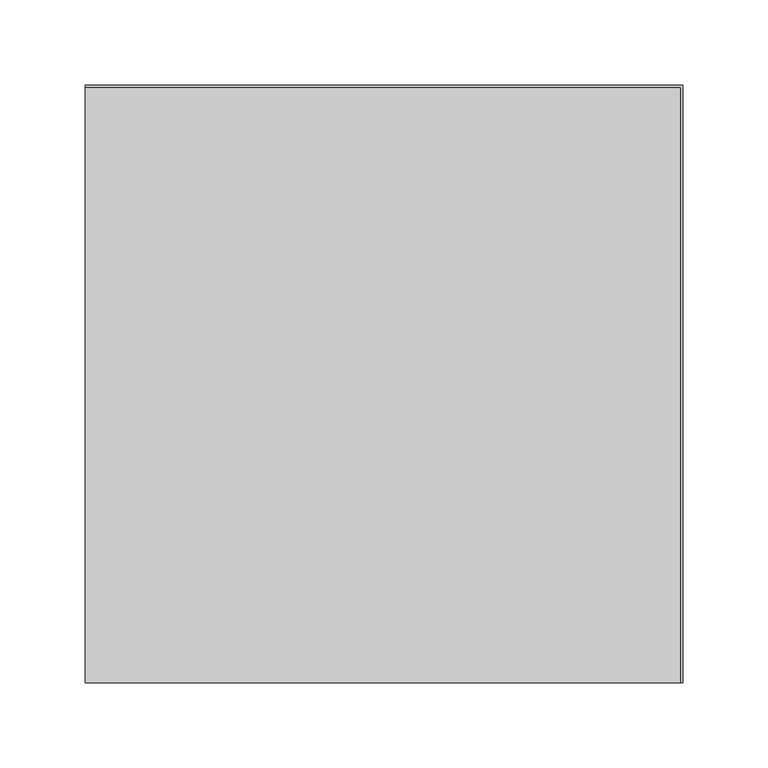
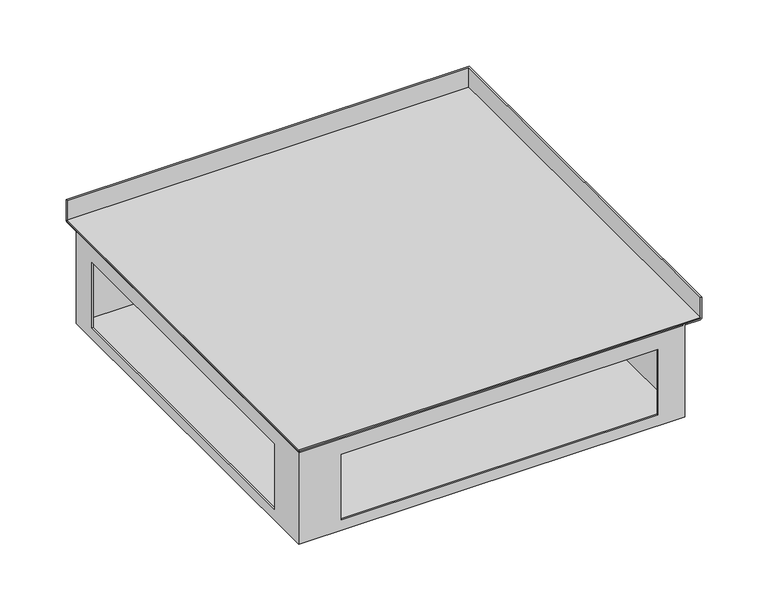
"""IFC4 building model written with IfcOpenShell, lengths in millimetres: proxy geometry, TECHNO_Угловой элемент_KVU : 350_105_90°."""

import ifcopenshell
import ifcopenshell.guid

model = None  # the IFC model being written
_history = None  # IfcOwnerHistory: only IFC2X3 demands one
_inside = {}  # id of a spatial element -> (the spatial element, [elements in it])
_under = {}  # id of a project, library or spatial element -> (it, [spatial elements below it])
_declared = {}  # id of a project -> (the project, [libraries it declares])
_typed = {}  # id of a type object -> (the type object, [elements of that type])
_made_of = {}  # id of a material, layer set ... -> (it, [elements and type objects made of it])


def new_model(schema):
    """Start an empty IFC model of exactly this schema.

    Asked for "IFC4X3", IfcOpenShell would pick the latest addendum, in which some entities
    have other attributes; the version numbers below select the first issue.
    IFC2X3 requires an IfcOwnerHistory on every rooted entity: one is made here for all.
    """
    global model, _history
    if schema == "IFC4X3":
        model = ifcopenshell.file(schema_version=(4, 3, 0, 0))
    else:
        model = ifcopenshell.file(schema=schema)
    _inside.clear()
    _under.clear()
    _declared.clear()
    _typed.clear()
    _made_of.clear()
    _history = None
    if model.schema == "IFC2X3":
        org = make("IfcOrganization", Name="unknown")
        user = make(
            "IfcPersonAndOrganization",
            ThePerson=make("IfcPerson", FamilyName="unknown"),
            TheOrganization=org,
        )
        app = make(
            "IfcApplication",
            ApplicationDeveloper=org,
            Version="unknown",
            ApplicationFullName="unknown",
            ApplicationIdentifier="unknown",
        )
        _history = make(
            "IfcOwnerHistory",
            OwningUser=user,
            OwningApplication=app,
            ChangeAction="ADDED",
            CreationDate=0,
        )
    return model


def make(cls, **values):
    """One entity of the class cls with the attributes given. An attribute that is None is left unset."""
    return model.create_entity(
        cls, **{name: value for name, value in values.items() if value is not None}
    )


def rooted(cls, **values):
    """An entity with a GlobalId (a new one), such as an element, a storey or a relation."""
    return make(cls, GlobalId=ifcopenshell.guid.new(), OwnerHistory=_history, **values)


def si_unit(unit_type, name, prefix=None):
    """IfcSIUnit, for example si_unit("LENGTHUNIT", "METRE", prefix="MILLI")."""
    return make("IfcSIUnit", UnitType=unit_type, Prefix=prefix, Name=name)


def assignment(units):
    """IfcUnitAssignment: the units of a project."""
    return None if units is None else make("IfcUnitAssignment", Units=units)


def point(xyz):
    """IfcCartesianPoint."""
    return None if xyz is None else make("IfcCartesianPoint", Coordinates=xyz)


def direction(xyz):
    """IfcDirection."""
    return None if xyz is None else make("IfcDirection", DirectionRatios=xyz)


def frame(location, z_axis=None, x_axis=None):
    """IfcAxis2Placement3D, a coordinate frame: its origin and axes. An axis left out is left unset."""
    return make(
        "IfcAxis2Placement3D",
        Location=point(location),
        Axis=direction(z_axis),
        RefDirection=direction(x_axis),
    )


def origin():
    """The frame at (0, 0, 0) with its axes left unset."""
    return frame((0.0, 0.0, 0.0))


def place(relative_to, where):
    """IfcLocalPlacement: puts the frame where relative to a parent placement (None: the world)."""
    return make(
        "IfcLocalPlacement", PlacementRelTo=relative_to, RelativePlacement=where
    )


def context(
    kind, dimensions, precision=None, world=None, true_north=None, identifier=None
):
    """IfcGeometricRepresentationContext, for example the 3D "Model" context."""
    return make(
        "IfcGeometricRepresentationContext",
        ContextIdentifier=identifier,
        ContextType=kind,
        CoordinateSpaceDimension=dimensions,
        Precision=precision,
        WorldCoordinateSystem=world,
        TrueNorth=true_north,
    )


def project(units=None, contexts=None):
    """IfcProject with its units and contexts."""
    return rooted(
        "IfcProject",
        Name="project",
        RepresentationContexts=contexts,
        UnitsInContext=assignment(units),
    )


def spatial(cls, under=None, at=None, **own):
    """A site, building, storey or space (cls), placed at a placement, below another one or the project."""
    s = rooted(cls, ObjectPlacement=at, **own)
    if under is not None:
        _under.setdefault(under.id(), (under, []))[1].append(s)
    return s


def polyline(points):
    """IfcPolyline through the points."""
    return make("IfcPolyline", Points=[point(p) for p in points])


def circle_curve(where, radius):
    """IfcCircle in the frame where."""
    return make("IfcCircle", Position=where, Radius=radius)


def ellipse_curve(where, semi_axis1, semi_axis2):
    """IfcEllipse in the frame where."""
    return make(
        "IfcEllipse", Position=where, SemiAxis1=semi_axis1, SemiAxis2=semi_axis2
    )


def outline(outer, holes=None, kind="AREA"):
    """IfcArbitraryClosedProfileDef: a profile drawn as a closed curve; with holes, ...WithVoids."""
    if holes is None:
        return make("IfcArbitraryClosedProfileDef", ProfileType=kind, OuterCurve=outer)
    return make(
        "IfcArbitraryProfileDefWithVoids",
        ProfileType=kind,
        OuterCurve=outer,
        InnerCurves=holes,
    )


def extrude(swept, where, along, depth):
    """IfcExtrudedAreaSolid: the profile swept, set in the frame where, extruded along a direction by depth."""
    return make(
        "IfcExtrudedAreaSolid",
        SweptArea=swept,
        Position=where,
        ExtrudedDirection=direction(along),
        Depth=depth,
    )


def shape(context_of_items, identifier, shape_type, items):
    """IfcShapeRepresentation: the items that make up one representation, for example the "Body"."""
    return make(
        "IfcShapeRepresentation",
        ContextOfItems=context_of_items,
        RepresentationIdentifier=identifier,
        RepresentationType=shape_type,
        Items=items,
    )


def source(mapping_origin, context_of_items, identifier, shape_type, items):
    """IfcRepresentationMap: a shape defined once, which mapped items show again and again."""
    return make(
        "IfcRepresentationMap",
        MappingOrigin=mapping_origin,
        MappedRepresentation=shape(context_of_items, identifier, shape_type, items),
    )


def transform(
    local_origin,
    x_axis=None,
    y_axis=None,
    z_axis=None,
    scale=None,
    scale2=None,
    scale3=None,
    uniform=True,
):
    """IfcCartesianTransformationOperator3D, or its non-uniform kind. x_axis, y_axis, z_axis: its Axis1, 2, 3."""
    if uniform:
        return make(
            "IfcCartesianTransformationOperator3D",
            Axis1=direction(x_axis),
            Axis2=direction(y_axis),
            LocalOrigin=point(local_origin),
            Scale=scale,
            Axis3=direction(z_axis),
        )
    return make(
        "IfcCartesianTransformationOperator3DnonUniform",
        Axis1=direction(x_axis),
        Axis2=direction(y_axis),
        LocalOrigin=point(local_origin),
        Scale=scale,
        Axis3=direction(z_axis),
        Scale2=scale2,
        Scale3=scale3,
    )


def mapped(mapping_source, mapping_target):
    """IfcMappedItem: shows the shape of a source again, moved by a transform."""
    return make(
        "IfcMappedItem", MappingSource=mapping_source, MappingTarget=mapping_target
    )


def made_of(thing, what):
    """Note that an element or type object is made of a material, layer set ...; save() writes the relation."""
    if what is not None:
        _made_of.setdefault(what.id(), (what, []))[1].append(thing)
    return thing


def element(
    cls,
    number,
    at=None,
    inside=None,
    cuts=None,
    type_object=None,
    material=None,
    context=None,
    identifier="Body",
    shape_type=None,
    held_by="IfcProductDefinitionShape",
    body=None,
    shapes=None,
    **own,
):
    """One element of the class cls, such as IfcWall. Its Tag is "e" and its number.

    at: its placement. inside: the storey or other place that contains it. cuts: it is an
    opening in that element (IfcRelVoidsElement). A single representation is given by context,
    identifier, shape_type and body (its items); several are given by shapes. held_by: the class
    of the entity that holds the representations. save() writes the other relations.
    """
    e = rooted(cls, Tag="e%d" % number, ObjectPlacement=at, **own)
    if body is not None:
        shapes = [shape(context, identifier, shape_type, body)]
    if shapes is not None:
        e.Representation = make(held_by, Representations=shapes)
    if inside is not None:
        _inside.setdefault(inside.id(), (inside, []))[1].append(e)
    if cuts is not None:
        rooted(
            "IfcRelVoidsElement", RelatingBuildingElement=cuts, RelatedOpeningElement=e
        )
    if type_object is not None:
        _typed.setdefault(type_object.id(), (type_object, []))[1].append(e)
    return made_of(e, material)


def aggregate(whole, parts):
    """IfcRelAggregates: a whole, such as a stair, and the parts it consists of."""
    return rooted("IfcRelAggregates", RelatingObject=whole, RelatedObjects=parts)


def save(model, path):
    """Write the relations noted so far, then the file.

    IfcRelAggregates (storeys below a building ...), IfcRelContainedInSpatialStructure (elements
    in a storey), IfcRelDefinesByType, IfcRelAssociatesMaterial and IfcRelDeclares: one each for
    every whole, place, type object, material and project.
    """
    for whole, parts in _under.values():
        aggregate(whole, parts)
    for where, things in _inside.values():
        rooted(
            "IfcRelContainedInSpatialStructure",
            RelatedElements=things,
            RelatingStructure=where,
        )
    for kind, things in _typed.values():
        rooted("IfcRelDefinesByType", RelatedObjects=things, RelatingType=kind)
    for what, things in _made_of.values():
        rooted("IfcRelAssociatesMaterial", RelatedObjects=things, RelatingMaterial=what)
    for by, libraries in _declared.values():
        rooted("IfcRelDeclares", RelatingContext=by, RelatedDefinitions=libraries)
    model.write(path)


def plane_surface(at):
    """IfcPlane: the flat surface through the origin of the frame at, square to its z axis."""
    return make("IfcPlane", Position=at)


def cylinder_surface(at, radius):
    """IfcCylindricalSurface: all points at the distance radius from the z axis of the frame at."""
    return make("IfcCylindricalSurface", Position=at, Radius=radius)


def advanced_brep(points, edges, surfaces, faces):
    """IfcAdvancedBrep: a solid bounded by faces that lie on surfaces and meet in shared edges.

    An edge is (start, end): straight between two places in points (the first is 0);
    or (start, end, curve); or (start, end, curve, False) where it runs against its curve.
    A face is (place in surfaces, loops), or (place, loops, False) where it looks against
    its surface's normal. A loop lists edges by number (the first is 1), with a minus sign
    where the edge is run from its end to its start. The first loop is the outer one.
    """
    corners = [point(p) for p in points]
    vertices = [make("IfcVertexPoint", VertexGeometry=c) for c in corners]
    made = []
    for start, end, *more in edges:
        made.append(
            make(
                "IfcEdgeCurve",
                EdgeStart=vertices[start],
                EdgeEnd=vertices[end],
                EdgeGeometry=more[0] if more else make("IfcPolyline", Points=[corners[start], corners[end]]),
                SameSense=more[1] if len(more) > 1 else True,
            )
        )
    hull = []
    for where, loops, *sense in faces:
        bounds = []
        for j, loop in enumerate(loops):
            ring = [make("IfcOrientedEdge", EdgeElement=made[abs(k) - 1], Orientation=k > 0) for k in loop]
            bounds.append(
                make(
                    "IfcFaceOuterBound" if j == 0 else "IfcFaceBound",
                    Bound=make("IfcEdgeLoop", EdgeList=ring),
                    Orientation=True,
                )
            )
        hull.append(make("IfcAdvancedFace", Bounds=bounds, FaceSurface=surfaces[where], SameSense=sense[0] if sense else True))
    return make("IfcAdvancedBrep", Outer=make("IfcClosedShell", CfsFaces=hull))


def mechanical_equipment_84d758d9(model_context):
    return source(origin(), model_context, "Body", "SolidModel", [
        extrude(outline(polyline([(0.0, 173.8), (348.8, 173.8), (348.8, -175.0), (0.0, -175.0), (0.0, 173.8)])), frame((0.0, 0.0, -19.3), z_axis=(0.0, 0.0, 1.0), x_axis=(1.0, 0.0, 0.0)), (0.0, 0.0, 1.0), 1.2),
        advanced_brep(
        [(1.2, 159.0, -103.8), (1.2, -173.8, -103.8), (334.0, -173.8, -103.8), (334.0, 159.0, -103.8), (0.0, 160.2, -105.0), (335.2, 160.2, -105.0), (335.2, -175.0, -105.0), (0.0, -175.0, -105.0), (0.0, 160.2, -20.5), (0.0, -175.0, -20.5), (0.0, 159.0, -20.5), (0.0, 160.2, -19.3), (0.0, 173.8, -19.3), (0.0, 173.8, 0.0), (0.0, 175.0, 0.0), (0.0, 175.0, -19.3), (0.0, 173.8, -20.5), (0.0, -138.0, -35.0), (0.0, -138.0, -95.0), (0.0, 137.0, -95.0), (0.0, 137.0, -35.0), (335.2, -175.0, -20.5), (348.8, -175.0, -20.5), (350.0, -175.0, -19.3), (350.0, -175.0, 0.0), (348.8, -175.0, 0.0), (348.8, -175.0, -19.3), (335.2, -175.0, -19.3), (334.0, -175.0, -20.5), (37.0, -175.0, -95.0), (37.0, -175.0, -35.0), (312.0, -175.0, -35.0), (312.0, -175.0, -95.0), (335.2, 160.2, -20.5), (1.2, 160.2, -19.3), (1.2, -173.8, -19.3), (335.2, -173.8, -19.3), (348.8, 173.8, -19.3), (335.2, -159.0, -19.3), (16.0, -159.0, -19.3), (16.0, 160.2, -19.3), (335.2, 160.2, -19.3), (16.0, -159.0, -20.5), (16.0, 159.0, -20.5), (334.0, -159.0, -20.5), (334.0, -173.8, -20.5), (1.2, -173.8, -20.5), (1.2, 159.0, -20.5), (1.2, -138.0, -95.0), (1.2, -138.0, -35.0), (1.2, 137.0, -35.0), (1.2, 137.0, -95.0), (37.0, -173.8, -35.0), (37.0, -173.8, -95.0), (312.0, -173.8, -95.0), (312.0, -173.8, -35.0), (350.0, 175.0, -19.3), (350.0, 175.0, 0.0), (348.8, 173.8, 0.0), (348.8, 173.8, -20.5), (334.0, 159.0, -20.5)],
        [
            (0, 1),
            (1, 2),
            (2, 3),
            (3, 0),
            (4, 5),
            (5, 6),
            (6, 7),
            (7, 4),
            (8, 4),
            (7, 9),
            (9, 10),
            (10, 11, circle_curve(frame((0.0, 160.2, -20.5), z_axis=(-1.0, 0.0, 0.0), x_axis=(0.0, -1.0, 0.0)), 1.2)),
            (11, 12),
            (12, 13),
            (13, 14),
            (14, 15),
            (15, 16, circle_curve(frame((0.0, 173.8, -19.3), z_axis=(-1.0, 0.0, 0.0), x_axis=(0.0, -1.0, 0.0)), 1.2)),
            (16, 8),
            (17, 18),
            (18, 19),
            (19, 20),
            (20, 17),
            (6, 21),
            (21, 22),
            (22, 23, circle_curve(frame((348.8, -175.0, -19.3), z_axis=(0.0, -1.0, 0.0), x_axis=(-1.0, 0.0, 0.0)), 1.2)),
            (23, 24),
            (24, 25),
            (25, 26),
            (26, 27),
            (27, 28, circle_curve(frame((335.2, -175.0, -20.5), z_axis=(0.0, -1.0, 0.0), x_axis=(-1.0, 0.0, 0.0)), 1.2)),
            (28, 9),
            (29, 30),
            (30, 31),
            (31, 32),
            (32, 29),
            (8, 33),
            (33, 5),
            (33, 21),
            (34, 35),
            (35, 36),
            (36, 27),
            (26, 37),
            (37, 12),
            (11, 34),
            (38, 39),
            (39, 40),
            (40, 41),
            (41, 38),
            (39, 42),
            (42, 43),
            (43, 40, circle_curve(frame((16.0, 160.2, -20.5), z_axis=(-1.0, 0.0, 0.0), x_axis=(0.0, -1.0, 0.0)), 1.2)),
            (38, 44, circle_curve(frame((335.2, -159.0, -20.5), z_axis=(0.0, -1.0, 0.0), x_axis=(-1.0, 0.0, 0.0)), 1.2)),
            (44, 42),
            (44, 45),
            (45, 46),
            (46, 47),
            (47, 43),
            (46, 1),
            (0, 47),
            (48, 49),
            (49, 50),
            (50, 51),
            (51, 48),
            (45, 2),
            (52, 53),
            (53, 54),
            (54, 55),
            (55, 52),
            (34, 10, ellipse_curve(frame((1.2, 160.2, -20.5), z_axis=(0.7071067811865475, -0.7071067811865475, 0.0), x_axis=(0.7071067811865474, 0.7071067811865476, 0.0)), 1.6970563, 1.2)),
            (9, 35, ellipse_curve(frame((1.2, -173.8, -20.5), z_axis=(-0.7071067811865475, 0.7071067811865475, 0.0), x_axis=(0.7071067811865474, 0.7071067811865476, 0.0)), 1.6970563, 1.2)),
            (28, 36, ellipse_curve(frame((335.2, -173.8, -20.5), z_axis=(-0.7071067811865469, 0.7071067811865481, 0.0), x_axis=(-0.7071067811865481, -0.7071067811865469, 0.0)), 1.6970563, 1.2)),
            (23, 56),
            (56, 57),
            (57, 24),
            (57, 14),
            (13, 58),
            (58, 25),
            (58, 37),
            (16, 59),
            (59, 22),
            (59, 56, ellipse_curve(frame((348.8, 173.8, -19.3), z_axis=(0.7071067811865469, -0.7071067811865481, 0.0), x_axis=(-0.7071067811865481, -0.7071067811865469, 0.0)), 1.6970563, 1.2)),
            (56, 15),
            (41, 60, ellipse_curve(frame((335.2, 160.2, -20.5), z_axis=(0.7071067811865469, -0.7071067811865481, 0.0), x_axis=(-0.7071067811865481, -0.7071067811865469, 0.0)), 1.6970563, 1.2)),
            (60, 44),
            (60, 3),
            (43, 60),
            (48, 18),
            (17, 49),
            (51, 19),
            (50, 20),
            (52, 30),
            (29, 53),
            (55, 31),
            (54, 32),
        ],
        [
            plane_surface(frame((0.0, 159.0, -103.8), z_axis=(0.0, 0.0, 1.0), x_axis=(0.0, -1.0, 0.0))),
            plane_surface(frame((0.0, 159.0, -105.0), z_axis=(0.0, 0.0, -1.0), x_axis=(0.0, 1.0, 0.0))),
            plane_surface(frame((0.0, 159.0, -103.8), z_axis=(-1.0, 0.0, 0.0), x_axis=(0.0, 0.0, -1.0))),
            plane_surface(frame((0.0, -175.0, -103.8), z_axis=(0.0, -1.0, 0.0), x_axis=(0.0, 0.0, -1.0))),
            plane_surface(frame((0.0, 160.2, -105.0), z_axis=(0.0, 1.0, 0.0), x_axis=(0.0, 0.0, -1.0))),
            plane_surface(frame((335.2, -175.0, -105.0), z_axis=(1.0, 0.0, 0.0), x_axis=(0.0, 0.0, -1.0))),
            plane_surface(frame((1.2, 160.2, -19.3), z_axis=(0.0, 0.0, 1.0), x_axis=(0.0, -1.0, 0.0))),
            plane_surface(frame((16.0, 160.2, -19.3), z_axis=(1.0, 0.0, 0.0), x_axis=(0.0, -1.0, 0.0))),
            plane_surface(frame((16.0, -159.0, -19.3), z_axis=(0.0, 1.0, 0.0), x_axis=(1.0, 0.0, 0.0))),
            plane_surface(frame((16.0, 160.2, -20.5), z_axis=(0.0, 0.0, -1.0), x_axis=(0.0, -1.0, 0.0))),
            plane_surface(frame((1.2, 160.2, -20.5), z_axis=(1.0, 0.0, 0.0), x_axis=(0.0, -1.0, 0.0))),
            plane_surface(frame((1.2, -173.8, -20.5), z_axis=(0.0, 1.0, 0.0), x_axis=(1.0, 0.0, 0.0))),
            cylinder_surface(frame((1.2, 160.2, -20.5), z_axis=(0.0, 1.0, 0.0), x_axis=(-1.0, 0.0, 0.0)), 1.2),
            cylinder_surface(frame((0.0, -173.8, -20.5), z_axis=(-1.0, 0.0, 0.0), x_axis=(0.0, -1.0, 0.0)), 1.2),
            plane_surface(frame((350.0, -175.0, -19.3), z_axis=(1.0, 0.0, 0.0), x_axis=(0.0, 1.0, 0.0))),
            plane_surface(frame((350.0, -175.0, 0.0), z_axis=(0.0, 0.0, 1.0), x_axis=(0.0, 1.0, 0.0))),
            plane_surface(frame((348.8, -175.0, 0.0), z_axis=(-1.0, 0.0, 0.0), x_axis=(0.0, 1.0, 0.0))),
            plane_surface(frame((335.2, -175.0, -20.5), z_axis=(0.0, 0.0, -1.0), x_axis=(0.0, 1.0, 0.0))),
            cylinder_surface(frame((348.8, -175.0, -19.3), z_axis=(0.0, -1.0, 0.0), x_axis=(-1.0, 0.0, 0.0)), 1.2),
            plane_surface(frame((350.0, 175.0, -19.3), z_axis=(0.0, 1.0, 0.0), x_axis=(-1.0, 0.0, 0.0))),
            plane_surface(frame((348.8, 173.8, 0.0), z_axis=(0.0, -1.0, 0.0), x_axis=(-1.0, 0.0, 0.0))),
            cylinder_surface(frame((175.0, 173.8, -19.3), z_axis=(1.0, 0.0, 0.0), x_axis=(0.0, -1.0, 0.0)), 1.2),
            cylinder_surface(frame((335.2, -175.0, -20.5), z_axis=(0.0, -1.0, 0.0), x_axis=(-1.0, 0.0, 0.0)), 1.2),
            plane_surface(frame((334.0, -175.0, -20.5), z_axis=(-1.0, 0.0, 0.0), x_axis=(0.0, 1.0, 0.0))),
            cylinder_surface(frame((175.0, 160.2, -20.5), z_axis=(1.0, 0.0, 0.0), x_axis=(0.0, -1.0, 0.0)), 1.2),
            plane_surface(frame((334.0, 159.0, -20.5), z_axis=(0.0, -1.0, 0.0), x_axis=(-1.0, 0.0, 0.0))),
            plane_surface(frame((1.2, -138.0, -35.0), z_axis=(0.0, 1.0, 0.0), x_axis=(-1.0, 0.0, 0.0))),
            plane_surface(frame((1.2, -138.0, -95.0), z_axis=(0.0, 0.0, 1.0), x_axis=(-1.0, 0.0, 0.0))),
            plane_surface(frame((1.2, 137.0, -95.0), z_axis=(0.0, -1.0, 0.0), x_axis=(-1.0, 0.0, 0.0))),
            plane_surface(frame((1.2, 137.0, -35.0), z_axis=(0.0, 0.0, -1.0), x_axis=(-1.0, 0.0, 0.0))),
            plane_surface(frame((37.0, -173.8, -95.0), z_axis=(1.0, 0.0, 0.0), x_axis=(0.0, -1.0, 0.0))),
            plane_surface(frame((37.0, -173.8, -35.0), z_axis=(0.0, 0.0, -1.0), x_axis=(0.0, -1.0, 0.0))),
            plane_surface(frame((312.0, -173.8, -35.0), z_axis=(-1.0, 0.0, 0.0), x_axis=(0.0, -1.0, 0.0))),
            plane_surface(frame((312.0, -173.8, -95.0), z_axis=(0.0, 0.0, 1.0), x_axis=(0.0, -1.0, 0.0))),
        ],
        [
            (0, [[1, 2, 3, 4]]),
            (1, [[5, 6, 7, 8]]),
            (2, [[9, -8, 10, 11, 12, 13, 14, 15, 16, 17, 18], [19, 20, 21, 22]]),
            (3, [[23, 24, 25, 26, 27, 28, 29, 30, 31, -10, -7], [32, 33, 34, 35]]),
            (4, [[-9, 36, 37, -5]]),
            (5, [[-23, -6, -37, 38]]),
            (6, [[39, 40, 41, -29, 42, 43, -13, 44], [45, 46, 47, 48]]),
            (7, [[-46, 49, 50, 51]]),
            (8, [[-45, 52, 53, -49]]),
            (9, [[-50, -53, 54, 55, 56, 57]]),
            (10, [[58, -1, 59, -56], [60, 61, 62, 63]]),
            (11, [[-58, -55, 64, -2], [65, 66, 67, 68]]),
            (12, [[-39, 69, -11, 70]]),
            (13, [[-40, -70, -31, 71]]),
            (14, [[-26, 72, 73, 74]]),
            (15, [[-27, -74, 75, -15, 76, 77]]),
            (16, [[-28, -77, 78, -42]]),
            (17, [[-24, -38, -36, -18, 79, 80]]),
            (18, [[-25, -80, 81, -72]]),
            (19, [[-73, 82, -16, -75]]),
            (20, [[-76, -14, -43, -78]]),
            (21, [[-79, -17, -82, -81]]),
            (22, [[-30, -41, -71]]),
            (22, [[83, 84, -52, -48]]),
            (23, [[85, -3, -64, -54, -84]]),
            (24, [[-12, -69, -44]]),
            (24, [[-83, -47, -51, 86]]),
            (25, [[-85, -86, -57, -59, -4]]),
            (26, [[87, -19, 88, -60]]),
            (27, [[-87, -63, 89, -20]]),
            (28, [[-89, -62, 90, -21]]),
            (29, [[-88, -22, -90, -61]]),
            (30, [[91, -32, 92, -65]]),
            (31, [[-91, -68, 93, -33]]),
            (32, [[-93, -67, 94, -34]]),
            (33, [[-92, -35, -94, -66]]),
        ],
    ),
    ])


if __name__ == "__main__":
    model = new_model("IFC4")
    model_context = context("Model", 3, world=origin())
    ifc_project = project(units=[si_unit("LENGTHUNIT", "METRE", prefix="MILLI")], contexts=[model_context])
    site = spatial("IfcSite", under=ifc_project)
    building = spatial("IfcBuilding", under=site)
    placement = place(None, origin())
    mechanical_equipment_shape = mechanical_equipment_84d758d9(model_context)
    element("IfcBuildingElementProxy", 1, Name="TECHNO_Угловой элемент_KVU : 350_105_90°", ObjectType="TECHNO_Угловой элемент_KVU : 350_105_90°", at=placement, inside=building, context=model_context, shape_type="MappedRepresentation", body=[
        mapped(mechanical_equipment_shape, transform((0.0, 0.0, 0.0), x_axis=(1.0, 0.0, 0.0), y_axis=(0.0, 1.0, 0.0), z_axis=(0.0, 0.0, 1.0))),
    ])
    save(model, "model.ifc")
